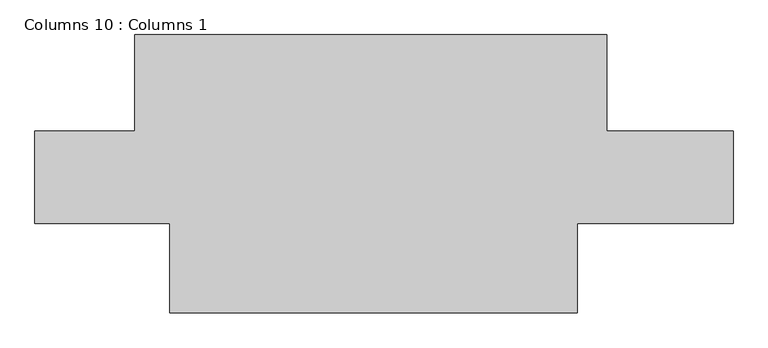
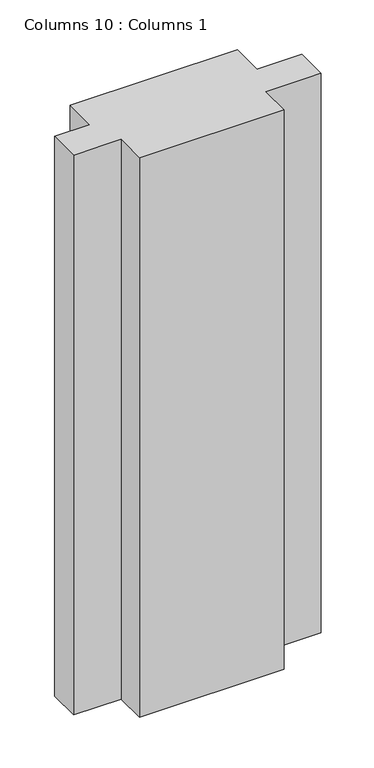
"""IFC4 building model written with IfcOpenShell, lengths in millimetres: column geometry, Columns 10 : Columns 1."""

import ifcopenshell
import ifcopenshell.guid

model = None  # the IFC model being written
_history = None  # IfcOwnerHistory: only IFC2X3 demands one
_inside = {}  # id of a spatial element -> (the spatial element, [elements in it])
_under = {}  # id of a project, library or spatial element -> (it, [spatial elements below it])
_declared = {}  # id of a project -> (the project, [libraries it declares])
_typed = {}  # id of a type object -> (the type object, [elements of that type])
_made_of = {}  # id of a material, layer set ... -> (it, [elements and type objects made of it])


def new_model(schema):
    """Start an empty IFC model of exactly this schema.

    Asked for "IFC4X3", IfcOpenShell would pick the latest addendum, in which some entities
    have other attributes; the version numbers below select the first issue.
    IFC2X3 requires an IfcOwnerHistory on every rooted entity: one is made here for all.
    """
    global model, _history
    if schema == "IFC4X3":
        model = ifcopenshell.file(schema_version=(4, 3, 0, 0))
    else:
        model = ifcopenshell.file(schema=schema)
    _inside.clear()
    _under.clear()
    _declared.clear()
    _typed.clear()
    _made_of.clear()
    _history = None
    if model.schema == "IFC2X3":
        org = make("IfcOrganization", Name="unknown")
        user = make(
            "IfcPersonAndOrganization",
            ThePerson=make("IfcPerson", FamilyName="unknown"),
            TheOrganization=org,
        )
        app = make(
            "IfcApplication",
            ApplicationDeveloper=org,
            Version="unknown",
            ApplicationFullName="unknown",
            ApplicationIdentifier="unknown",
        )
        _history = make(
            "IfcOwnerHistory",
            OwningUser=user,
            OwningApplication=app,
            ChangeAction="ADDED",
            CreationDate=0,
        )
    return model


def make(cls, **values):
    """One entity of the class cls with the attributes given. An attribute that is None is left unset."""
    return model.create_entity(
        cls, **{name: value for name, value in values.items() if value is not None}
    )


def rooted(cls, **values):
    """An entity with a GlobalId (a new one), such as an element, a storey or a relation."""
    return make(cls, GlobalId=ifcopenshell.guid.new(), OwnerHistory=_history, **values)


def si_unit(unit_type, name, prefix=None):
    """IfcSIUnit, for example si_unit("LENGTHUNIT", "METRE", prefix="MILLI")."""
    return make("IfcSIUnit", UnitType=unit_type, Prefix=prefix, Name=name)


def assignment(units):
    """IfcUnitAssignment: the units of a project."""
    return None if units is None else make("IfcUnitAssignment", Units=units)


def point(xyz):
    """IfcCartesianPoint."""
    return None if xyz is None else make("IfcCartesianPoint", Coordinates=xyz)


def direction(xyz):
    """IfcDirection."""
    return None if xyz is None else make("IfcDirection", DirectionRatios=xyz)


def frame(location, z_axis=None, x_axis=None):
    """IfcAxis2Placement3D, a coordinate frame: its origin and axes. An axis left out is left unset."""
    return make(
        "IfcAxis2Placement3D",
        Location=point(location),
        Axis=direction(z_axis),
        RefDirection=direction(x_axis),
    )


def origin():
    """The frame at (0, 0, 0) with its axes left unset."""
    return frame((0.0, 0.0, 0.0))


def origin_with_axes():
    """The frame at (0, 0, 0) with the z axis (0, 0, 1) and the x axis (1, 0, 0) written out."""
    return frame((0.0, 0.0, 0.0), z_axis=(0.0, 0.0, 1.0), x_axis=(1.0, 0.0, 0.0))


def place(relative_to, where):
    """IfcLocalPlacement: puts the frame where relative to a parent placement (None: the world)."""
    return make(
        "IfcLocalPlacement", PlacementRelTo=relative_to, RelativePlacement=where
    )


def context(
    kind, dimensions, precision=None, world=None, true_north=None, identifier=None
):
    """IfcGeometricRepresentationContext, for example the 3D "Model" context."""
    return make(
        "IfcGeometricRepresentationContext",
        ContextIdentifier=identifier,
        ContextType=kind,
        CoordinateSpaceDimension=dimensions,
        Precision=precision,
        WorldCoordinateSystem=world,
        TrueNorth=true_north,
    )


def project(units=None, contexts=None):
    """IfcProject with its units and contexts."""
    return rooted(
        "IfcProject",
        Name="project",
        RepresentationContexts=contexts,
        UnitsInContext=assignment(units),
    )


def spatial(cls, under=None, at=None, **own):
    """A site, building, storey or space (cls), placed at a placement, below another one or the project."""
    s = rooted(cls, ObjectPlacement=at, **own)
    if under is not None:
        _under.setdefault(under.id(), (under, []))[1].append(s)
    return s


def polyline(points):
    """IfcPolyline through the points."""
    return make("IfcPolyline", Points=[point(p) for p in points])


def outline(outer, holes=None, kind="AREA"):
    """IfcArbitraryClosedProfileDef: a profile drawn as a closed curve; with holes, ...WithVoids."""
    if holes is None:
        return make("IfcArbitraryClosedProfileDef", ProfileType=kind, OuterCurve=outer)
    return make(
        "IfcArbitraryProfileDefWithVoids",
        ProfileType=kind,
        OuterCurve=outer,
        InnerCurves=holes,
    )


def extrude(swept, where, along, depth):
    """IfcExtrudedAreaSolid: the profile swept, set in the frame where, extruded along a direction by depth."""
    return make(
        "IfcExtrudedAreaSolid",
        SweptArea=swept,
        Position=where,
        ExtrudedDirection=direction(along),
        Depth=depth,
    )


def shape(context_of_items, identifier, shape_type, items):
    """IfcShapeRepresentation: the items that make up one representation, for example the "Body"."""
    return make(
        "IfcShapeRepresentation",
        ContextOfItems=context_of_items,
        RepresentationIdentifier=identifier,
        RepresentationType=shape_type,
        Items=items,
    )


def source(mapping_origin, context_of_items, identifier, shape_type, items):
    """IfcRepresentationMap: a shape defined once, which mapped items show again and again."""
    return make(
        "IfcRepresentationMap",
        MappingOrigin=mapping_origin,
        MappedRepresentation=shape(context_of_items, identifier, shape_type, items),
    )


def transform(
    local_origin,
    x_axis=None,
    y_axis=None,
    z_axis=None,
    scale=None,
    scale2=None,
    scale3=None,
    uniform=True,
):
    """IfcCartesianTransformationOperator3D, or its non-uniform kind. x_axis, y_axis, z_axis: its Axis1, 2, 3."""
    if uniform:
        return make(
            "IfcCartesianTransformationOperator3D",
            Axis1=direction(x_axis),
            Axis2=direction(y_axis),
            LocalOrigin=point(local_origin),
            Scale=scale,
            Axis3=direction(z_axis),
        )
    return make(
        "IfcCartesianTransformationOperator3DnonUniform",
        Axis1=direction(x_axis),
        Axis2=direction(y_axis),
        LocalOrigin=point(local_origin),
        Scale=scale,
        Axis3=direction(z_axis),
        Scale2=scale2,
        Scale3=scale3,
    )


def mapped(mapping_source, mapping_target):
    """IfcMappedItem: shows the shape of a source again, moved by a transform."""
    return make(
        "IfcMappedItem", MappingSource=mapping_source, MappingTarget=mapping_target
    )


def made_of(thing, what):
    """Note that an element or type object is made of a material, layer set ...; save() writes the relation."""
    if what is not None:
        _made_of.setdefault(what.id(), (what, []))[1].append(thing)
    return thing


def element(
    cls,
    number,
    at=None,
    inside=None,
    cuts=None,
    type_object=None,
    material=None,
    context=None,
    identifier="Body",
    shape_type=None,
    held_by="IfcProductDefinitionShape",
    body=None,
    shapes=None,
    **own,
):
    """One element of the class cls, such as IfcWall. Its Tag is "e" and its number.

    at: its placement. inside: the storey or other place that contains it. cuts: it is an
    opening in that element (IfcRelVoidsElement). A single representation is given by context,
    identifier, shape_type and body (its items); several are given by shapes. held_by: the class
    of the entity that holds the representations. save() writes the other relations.
    """
    e = rooted(cls, Tag="e%d" % number, ObjectPlacement=at, **own)
    if body is not None:
        shapes = [shape(context, identifier, shape_type, body)]
    if shapes is not None:
        e.Representation = make(held_by, Representations=shapes)
    if inside is not None:
        _inside.setdefault(inside.id(), (inside, []))[1].append(e)
    if cuts is not None:
        rooted(
            "IfcRelVoidsElement", RelatingBuildingElement=cuts, RelatedOpeningElement=e
        )
    if type_object is not None:
        _typed.setdefault(type_object.id(), (type_object, []))[1].append(e)
    return made_of(e, material)


def aggregate(whole, parts):
    """IfcRelAggregates: a whole, such as a stair, and the parts it consists of."""
    return rooted("IfcRelAggregates", RelatingObject=whole, RelatedObjects=parts)


def save(model, path):
    """Write the relations noted so far, then the file.

    IfcRelAggregates (storeys below a building ...), IfcRelContainedInSpatialStructure (elements
    in a storey), IfcRelDefinesByType, IfcRelAssociatesMaterial and IfcRelDeclares: one each for
    every whole, place, type object, material and project.
    """
    for whole, parts in _under.values():
        aggregate(whole, parts)
    for where, things in _inside.values():
        rooted(
            "IfcRelContainedInSpatialStructure",
            RelatedElements=things,
            RelatingStructure=where,
        )
    for kind, things in _typed.values():
        rooted("IfcRelDefinesByType", RelatedObjects=things, RelatingType=kind)
    for what, things in _made_of.values():
        rooted("IfcRelAssociatesMaterial", RelatedObjects=things, RelatingMaterial=what)
    for by, libraries in _declared.values():
        rooted("IfcRelDeclares", RelatingContext=by, RelatedDefinitions=libraries)
    model.write(path)


def columns_10_columns_1_1345206f(model_context):
    return source(origin(), model_context, "Body", "SweptSolid", [
        extrude(outline(polyline([(-19767.7478355, 117135.7591334), (-19767.7478355, 116940.3709578), (-20661.1928355, 116940.3709578), (-20661.1928355, 117135.7591334), (-20956.6085473, 117135.7591334), (-20956.6085473, 117338.9591334), (-20738.2074032, 117338.9591334), (-20738.2074032, 117549.9709578), (-19703.1574032, 117549.9709578), (-19703.1574032, 117338.9591334), (-19426.2585473, 117338.9591334), (-19426.2585473, 117135.7591334), (-19767.7478355, 117135.7591334)])), origin_with_axes(), (0.0, 0.0, 1.0), 3657.6),
    ])


if __name__ == "__main__":
    model = new_model("IFC4")
    model_context = context("Model", 3, world=origin())
    ifc_project = project(units=[si_unit("LENGTHUNIT", "METRE", prefix="MILLI")], contexts=[model_context])
    site = spatial("IfcSite", under=ifc_project)
    building = spatial("IfcBuilding", under=site)
    placement = place(None, origin())
    columns_10_columns_1_shape = columns_10_columns_1_1345206f(model_context)
    element("IfcColumn", 1, ObjectType="Columns 10 : Columns 1", at=placement, inside=building, context=model_context, shape_type="MappedRepresentation", body=[
        mapped(columns_10_columns_1_shape, transform((0.0, 0.0, 0.0), x_axis=(1.0, 0.0, 0.0), y_axis=(0.0, 1.0, 0.0), z_axis=(0.0, 0.0, 1.0))),
    ])
    save(model, "model.ifc")
